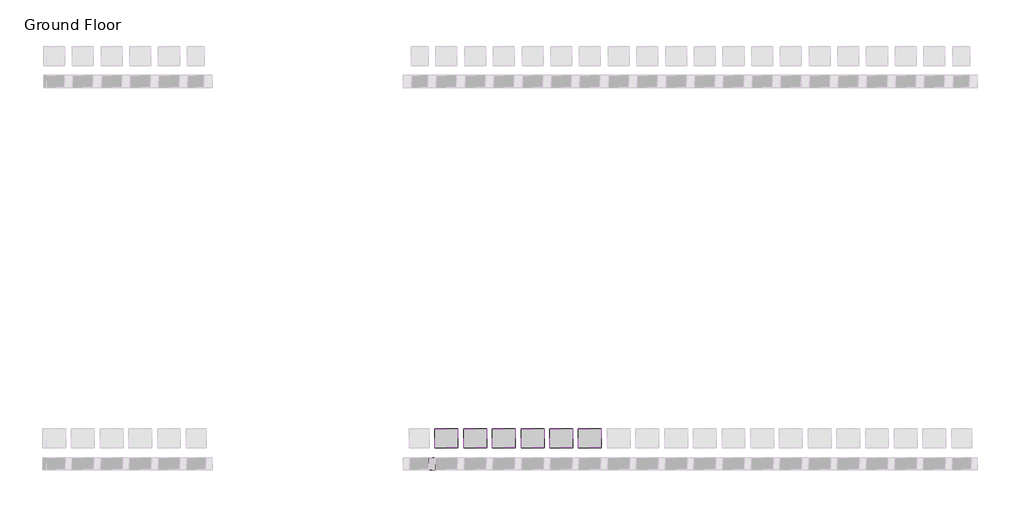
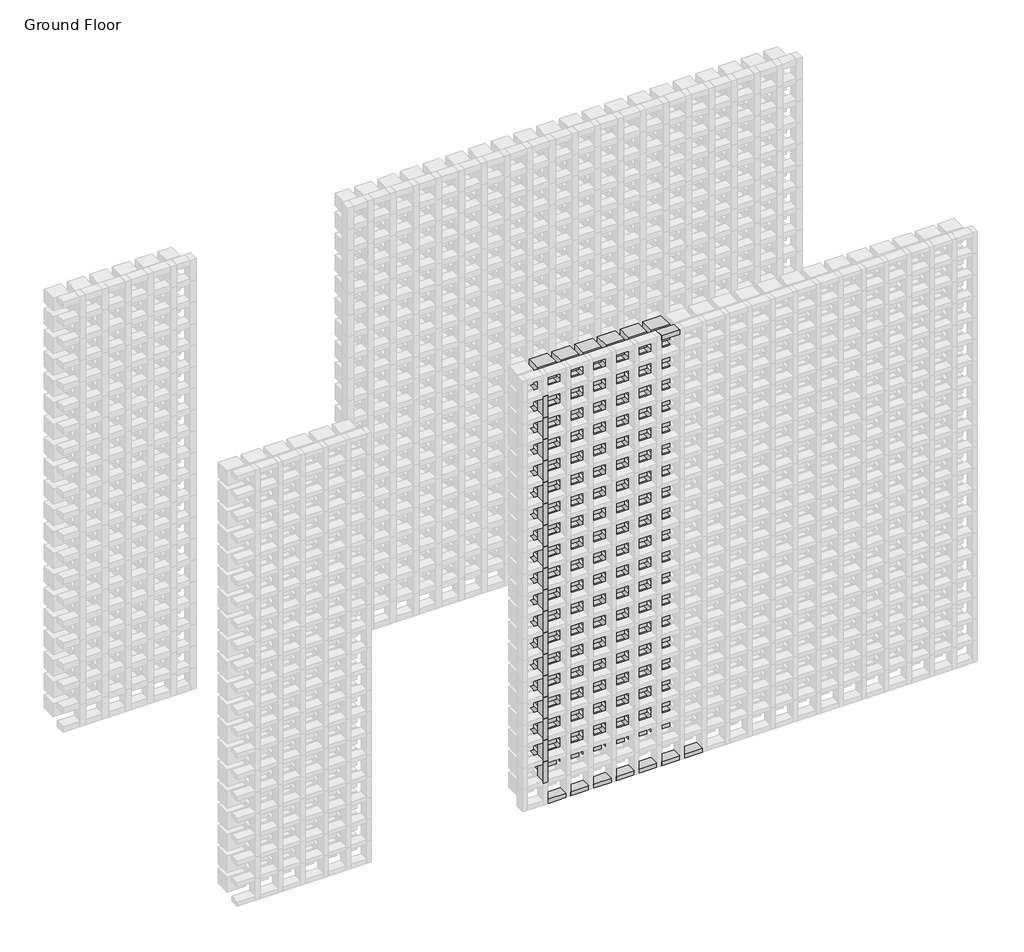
# One storey, part 74 of 350: 114 plates, 26 members.
"""IFC4 building model written with IfcOpenShell, lengths in millimetres."""

from ifc_helpers import new_model, si_unit, origin, place, context, project, spatial, transform, mapped, element, save
from components import rectangular_mullion_51467dcc, rectangular_mullion_d4c9a775, rectangular_mullion_5b501421, empty_system_panel_empty_a57e421f, empty_system_panel_empty_fe50b430

model = new_model("IFC4")

# Units and contexts
model_context = context("Model", 3, world=origin())
ifc_project = project(units=[si_unit("LENGTHUNIT", "METRE", prefix="MILLI")], contexts=[model_context])

# Site, building, storey
site = spatial("IfcSite", under=ifc_project)
building = spatial("IfcBuilding", under=site)
storey = spatial("IfcBuildingStorey", under=building, Name="Ground Floor", Elevation=0.0)

# Members
placement = place(None, origin())
rectangular_mullion_shape = rectangular_mullion_51467dcc(model_context)
element("IfcMember", 1, ObjectType="Rectangular Mullion : Batten_Timber_Modinex_Austratus_Grid_Fascia_30x65_Ironbark", at=placement, inside=storey, context=model_context, shape_type="MappedRepresentation", body=[
    mapped(rectangular_mullion_shape, transform((14951.4361642, 38968.2978302, 3000.0), x_axis=(0.0, 0.0, 1.0), y_axis=(0.0, -1.0, 0.0), z_axis=(1.0, 0.0, 0.0))),
])
rectangular_mullion_2_shape = rectangular_mullion_d4c9a775(model_context)
element("IfcMember", 2, ObjectType="Rectangular Mullion : Batten_Timber_Modinex_Austratus_Grid_Fascia_30x65_Ironbark", at=placement, inside=storey, context=model_context, shape_type="MappedRepresentation", body=[
    mapped(rectangular_mullion_2_shape, transform((14081.4361642, 38968.2978302, 0.0), x_axis=(0.0, 0.0, -1.0), y_axis=(0.0, -1.0, 0.0), z_axis=(-1.0, 0.0, 0.0))),
])
element("IfcMember", 3, ObjectType="Rectangular Mullion : Batten_Timber_Modinex_Austratus_Grid_Fascia_30x65_Ironbark", at=placement, inside=storey, context=model_context, shape_type="MappedRepresentation", body=[
    mapped(rectangular_mullion_2_shape, transform((14231.4361642, 38968.2978302, 0.0), x_axis=(0.0, 0.0, -1.0), y_axis=(0.0, -1.0, 0.0), z_axis=(-1.0, 0.0, 0.0))),
])
element("IfcMember", 4, ObjectType="Rectangular Mullion : Batten_Timber_Modinex_Austratus_Grid_Fascia_30x65_Ironbark", at=placement, inside=storey, context=model_context, shape_type="MappedRepresentation", body=[
    mapped(rectangular_mullion_2_shape, transform((14381.4361642, 38968.2978302, 0.0), x_axis=(0.0, 0.0, -1.0), y_axis=(0.0, -1.0, 0.0), z_axis=(-1.0, 0.0, 0.0))),
])
element("IfcMember", 5, ObjectType="Rectangular Mullion : Batten_Timber_Modinex_Austratus_Grid_Fascia_30x65_Ironbark", at=placement, inside=storey, context=model_context, shape_type="MappedRepresentation", body=[
    mapped(rectangular_mullion_2_shape, transform((14531.4361642, 38968.2978302, 0.0), x_axis=(0.0, 0.0, -1.0), y_axis=(0.0, -1.0, 0.0), z_axis=(-1.0, 0.0, 0.0))),
])
element("IfcMember", 6, ObjectType="Rectangular Mullion : Batten_Timber_Modinex_Austratus_Grid_Fascia_30x65_Ironbark", at=placement, inside=storey, context=model_context, shape_type="MappedRepresentation", body=[
    mapped(rectangular_mullion_2_shape, transform((14681.4361642, 38968.2978302, 0.0), x_axis=(0.0, 0.0, -1.0), y_axis=(0.0, -1.0, 0.0), z_axis=(-1.0, 0.0, 0.0))),
])
element("IfcMember", 7, ObjectType="Rectangular Mullion : Batten_Timber_Modinex_Austratus_Grid_Fascia_30x65_Ironbark", at=placement, inside=storey, context=model_context, shape_type="MappedRepresentation", body=[
    mapped(rectangular_mullion_2_shape, transform((14831.4361642, 38968.2978302, 0.0), x_axis=(0.0, 0.0, -1.0), y_axis=(0.0, -1.0, 0.0), z_axis=(-1.0, 0.0, 0.0))),
])
element("IfcMember", 8, ObjectType="Rectangular Mullion : Batten_Timber_Modinex_Austratus_Grid_Fascia_30x65_Ironbark", at=placement, inside=storey, context=model_context, shape_type="MappedRepresentation", body=[
    mapped(rectangular_mullion_2_shape, transform((14981.4361642, 38968.2978302, 0.0), x_axis=(0.0, 0.0, -1.0), y_axis=(0.0, -1.0, 0.0), z_axis=(-1.0, 0.0, 0.0))),
])
rectangular_mullion_3_shape = rectangular_mullion_5b501421(model_context)
element("IfcMember", 9, ObjectType="Rectangular Mullion : Batten_Timber_Modinex_Austratus_Grid_Fascia_30x65_Ironbark", at=placement, inside=storey, context=model_context, shape_type="MappedRepresentation", body=[
    mapped(rectangular_mullion_3_shape, transform((14066.4361642, 38968.2978302, 150.0), x_axis=(1.0, 0.0, 0.0), y_axis=(0.0, -1.0, 0.0), z_axis=(0.0, 0.0, -1.0))),
])
element("IfcMember", 10, ObjectType="Rectangular Mullion : Batten_Timber_Modinex_Austratus_Grid_Fascia_30x65_Ironbark", at=placement, inside=storey, context=model_context, shape_type="MappedRepresentation", body=[
    mapped(rectangular_mullion_3_shape, transform((14066.4361642, 38968.2978302, 300.0), x_axis=(1.0, 0.0, 0.0), y_axis=(0.0, -1.0, 0.0), z_axis=(0.0, 0.0, -1.0))),
])
element("IfcMember", 11, ObjectType="Rectangular Mullion : Batten_Timber_Modinex_Austratus_Grid_Fascia_30x65_Ironbark", at=placement, inside=storey, context=model_context, shape_type="MappedRepresentation", body=[
    mapped(rectangular_mullion_3_shape, transform((14066.4361642, 38968.2978302, 450.0), x_axis=(1.0, 0.0, 0.0), y_axis=(0.0, -1.0, 0.0), z_axis=(0.0, 0.0, -1.0))),
])
element("IfcMember", 12, ObjectType="Rectangular Mullion : Batten_Timber_Modinex_Austratus_Grid_Fascia_30x65_Ironbark", at=placement, inside=storey, context=model_context, shape_type="MappedRepresentation", body=[
    mapped(rectangular_mullion_3_shape, transform((14066.4361642, 38968.2978302, 600.0), x_axis=(1.0, 0.0, 0.0), y_axis=(0.0, -1.0, 0.0), z_axis=(0.0, 0.0, -1.0))),
])
element("IfcMember", 13, ObjectType="Rectangular Mullion : Batten_Timber_Modinex_Austratus_Grid_Fascia_30x65_Ironbark", at=placement, inside=storey, context=model_context, shape_type="MappedRepresentation", body=[
    mapped(rectangular_mullion_3_shape, transform((14066.4361642, 38968.2978302, 750.0), x_axis=(1.0, 0.0, 0.0), y_axis=(0.0, -1.0, 0.0), z_axis=(0.0, 0.0, -1.0))),
])
element("IfcMember", 14, ObjectType="Rectangular Mullion : Batten_Timber_Modinex_Austratus_Grid_Fascia_30x65_Ironbark", at=placement, inside=storey, context=model_context, shape_type="MappedRepresentation", body=[
    mapped(rectangular_mullion_3_shape, transform((14066.4361642, 38968.2978302, 900.0), x_axis=(1.0, 0.0, 0.0), y_axis=(0.0, -1.0, 0.0), z_axis=(0.0, 0.0, -1.0))),
])
element("IfcMember", 15, ObjectType="Rectangular Mullion : Batten_Timber_Modinex_Austratus_Grid_Fascia_30x65_Ironbark", at=placement, inside=storey, context=model_context, shape_type="MappedRepresentation", body=[
    mapped(rectangular_mullion_3_shape, transform((14066.4361642, 38968.2978302, 1050.0), x_axis=(1.0, 0.0, 0.0), y_axis=(0.0, -1.0, 0.0), z_axis=(0.0, 0.0, -1.0))),
])
element("IfcMember", 16, ObjectType="Rectangular Mullion : Batten_Timber_Modinex_Austratus_Grid_Fascia_30x65_Ironbark", at=placement, inside=storey, context=model_context, shape_type="MappedRepresentation", body=[
    mapped(rectangular_mullion_3_shape, transform((14066.4361642, 38968.2978302, 1200.0), x_axis=(1.0, 0.0, 0.0), y_axis=(0.0, -1.0, 0.0), z_axis=(0.0, 0.0, -1.0))),
])
element("IfcMember", 17, ObjectType="Rectangular Mullion : Batten_Timber_Modinex_Austratus_Grid_Fascia_30x65_Ironbark", at=placement, inside=storey, context=model_context, shape_type="MappedRepresentation", body=[
    mapped(rectangular_mullion_3_shape, transform((14066.4361642, 38968.2978302, 1350.0), x_axis=(1.0, 0.0, 0.0), y_axis=(0.0, -1.0, 0.0), z_axis=(0.0, 0.0, -1.0))),
])
element("IfcMember", 18, ObjectType="Rectangular Mullion : Batten_Timber_Modinex_Austratus_Grid_Fascia_30x65_Ironbark", at=placement, inside=storey, context=model_context, shape_type="MappedRepresentation", body=[
    mapped(rectangular_mullion_3_shape, transform((14066.4361642, 38968.2978302, 1500.0), x_axis=(1.0, 0.0, 0.0), y_axis=(0.0, -1.0, 0.0), z_axis=(0.0, 0.0, -1.0))),
])
element("IfcMember", 19, ObjectType="Rectangular Mullion : Batten_Timber_Modinex_Austratus_Grid_Fascia_30x65_Ironbark", at=placement, inside=storey, context=model_context, shape_type="MappedRepresentation", body=[
    mapped(rectangular_mullion_3_shape, transform((14066.4361642, 38968.2978302, 1650.0), x_axis=(1.0, 0.0, 0.0), y_axis=(0.0, -1.0, 0.0), z_axis=(0.0, 0.0, -1.0))),
])
element("IfcMember", 20, ObjectType="Rectangular Mullion : Batten_Timber_Modinex_Austratus_Grid_Fascia_30x65_Ironbark", at=placement, inside=storey, context=model_context, shape_type="MappedRepresentation", body=[
    mapped(rectangular_mullion_3_shape, transform((14066.4361642, 38968.2978302, 1800.0), x_axis=(1.0, 0.0, 0.0), y_axis=(0.0, -1.0, 0.0), z_axis=(0.0, 0.0, -1.0))),
])
element("IfcMember", 21, ObjectType="Rectangular Mullion : Batten_Timber_Modinex_Austratus_Grid_Fascia_30x65_Ironbark", at=placement, inside=storey, context=model_context, shape_type="MappedRepresentation", body=[
    mapped(rectangular_mullion_3_shape, transform((14066.4361642, 38968.2978302, 1950.0), x_axis=(1.0, 0.0, 0.0), y_axis=(0.0, -1.0, 0.0), z_axis=(0.0, 0.0, -1.0))),
])
element("IfcMember", 22, ObjectType="Rectangular Mullion : Batten_Timber_Modinex_Austratus_Grid_Fascia_30x65_Ironbark", at=placement, inside=storey, context=model_context, shape_type="MappedRepresentation", body=[
    mapped(rectangular_mullion_3_shape, transform((14066.4361642, 38968.2978302, 2100.0), x_axis=(1.0, 0.0, 0.0), y_axis=(0.0, -1.0, 0.0), z_axis=(0.0, 0.0, -1.0))),
])
element("IfcMember", 23, ObjectType="Rectangular Mullion : Batten_Timber_Modinex_Austratus_Grid_Fascia_30x65_Ironbark", at=placement, inside=storey, context=model_context, shape_type="MappedRepresentation", body=[
    mapped(rectangular_mullion_3_shape, transform((14066.4361642, 38968.2978302, 2250.0), x_axis=(1.0, 0.0, 0.0), y_axis=(0.0, -1.0, 0.0), z_axis=(0.0, 0.0, -1.0))),
])
element("IfcMember", 24, ObjectType="Rectangular Mullion : Batten_Timber_Modinex_Austratus_Grid_Fascia_30x65_Ironbark", at=placement, inside=storey, context=model_context, shape_type="MappedRepresentation", body=[
    mapped(rectangular_mullion_3_shape, transform((14066.4361642, 38968.2978302, 2400.0), x_axis=(1.0, 0.0, 0.0), y_axis=(0.0, -1.0, 0.0), z_axis=(0.0, 0.0, -1.0))),
])
element("IfcMember", 25, ObjectType="Rectangular Mullion : Batten_Timber_Modinex_Austratus_Grid_Fascia_30x65_Ironbark", at=placement, inside=storey, context=model_context, shape_type="MappedRepresentation", body=[
    mapped(rectangular_mullion_3_shape, transform((14066.4361642, 38968.2978302, 2550.0), x_axis=(1.0, 0.0, 0.0), y_axis=(0.0, -1.0, 0.0), z_axis=(0.0, 0.0, -1.0))),
])
element("IfcMember", 26, ObjectType="Rectangular Mullion : Batten_Timber_Modinex_Austratus_Grid_Fascia_30x65_Ironbark", at=placement, inside=storey, context=model_context, shape_type="MappedRepresentation", body=[
    mapped(rectangular_mullion_3_shape, transform((14066.4361642, 38968.2978302, 2700.0), x_axis=(1.0, 0.0, 0.0), y_axis=(0.0, -1.0, 0.0), z_axis=(0.0, 0.0, -1.0))),
])

# Plates
empty_system_panel_empty_shape = empty_system_panel_empty_a57e421f(model_context)
element("IfcPlate", 27, ObjectType="Empty System Panel : Empty", at=placement, inside=storey, context=model_context, shape_type="MappedRepresentation", body=[
    mapped(empty_system_panel_empty_shape, transform((14141.4361642, 38968.2978302, 165.0), x_axis=(1.0, 0.0, 0.0), y_axis=(0.0, 1.0, 0.0), z_axis=(0.0, 0.0, 1.0))),
])
element("IfcPlate", 28, ObjectType="Empty System Panel : Empty", at=placement, inside=storey, context=model_context, shape_type="MappedRepresentation", body=[
    mapped(empty_system_panel_empty_shape, transform((14291.4361642, 38968.2978302, 165.0), x_axis=(1.0, 0.0, 0.0), y_axis=(0.0, 1.0, 0.0), z_axis=(0.0, 0.0, 1.0))),
])
element("IfcPlate", 29, ObjectType="Empty System Panel : Empty", at=placement, inside=storey, context=model_context, shape_type="MappedRepresentation", body=[
    mapped(empty_system_panel_empty_shape, transform((14441.4361642, 38968.2978302, 165.0), x_axis=(1.0, 0.0, 0.0), y_axis=(0.0, 1.0, 0.0), z_axis=(0.0, 0.0, 1.0))),
])
element("IfcPlate", 30, ObjectType="Empty System Panel : Empty", at=placement, inside=storey, context=model_context, shape_type="MappedRepresentation", body=[
    mapped(empty_system_panel_empty_shape, transform((14591.4361642, 38968.2978302, 165.0), x_axis=(1.0, 0.0, 0.0), y_axis=(0.0, 1.0, 0.0), z_axis=(0.0, 0.0, 1.0))),
])
element("IfcPlate", 31, ObjectType="Empty System Panel : Empty", at=placement, inside=storey, context=model_context, shape_type="MappedRepresentation", body=[
    mapped(empty_system_panel_empty_shape, transform((14741.4361642, 38968.2978302, 165.0), x_axis=(1.0, 0.0, 0.0), y_axis=(0.0, 1.0, 0.0), z_axis=(0.0, 0.0, 1.0))),
])
element("IfcPlate", 32, ObjectType="Empty System Panel : Empty", at=placement, inside=storey, context=model_context, shape_type="MappedRepresentation", body=[
    mapped(empty_system_panel_empty_shape, transform((14891.4361642, 38968.2978302, 165.0), x_axis=(1.0, 0.0, 0.0), y_axis=(0.0, 1.0, 0.0), z_axis=(0.0, 0.0, 1.0))),
])
element("IfcPlate", 33, ObjectType="Empty System Panel : Empty", at=placement, inside=storey, context=model_context, shape_type="MappedRepresentation", body=[
    mapped(empty_system_panel_empty_shape, transform((14141.4361642, 38968.2978302, 315.0), x_axis=(1.0, 0.0, 0.0), y_axis=(0.0, 1.0, 0.0), z_axis=(0.0, 0.0, 1.0))),
])
element("IfcPlate", 34, ObjectType="Empty System Panel : Empty", at=placement, inside=storey, context=model_context, shape_type="MappedRepresentation", body=[
    mapped(empty_system_panel_empty_shape, transform((14291.4361642, 38968.2978302, 315.0), x_axis=(1.0, 0.0, 0.0), y_axis=(0.0, 1.0, 0.0), z_axis=(0.0, 0.0, 1.0))),
])
element("IfcPlate", 35, ObjectType="Empty System Panel : Empty", at=placement, inside=storey, context=model_context, shape_type="MappedRepresentation", body=[
    mapped(empty_system_panel_empty_shape, transform((14441.4361642, 38968.2978302, 315.0), x_axis=(1.0, 0.0, 0.0), y_axis=(0.0, 1.0, 0.0), z_axis=(0.0, 0.0, 1.0))),
])
element("IfcPlate", 36, ObjectType="Empty System Panel : Empty", at=placement, inside=storey, context=model_context, shape_type="MappedRepresentation", body=[
    mapped(empty_system_panel_empty_shape, transform((14591.4361642, 38968.2978302, 315.0), x_axis=(1.0, 0.0, 0.0), y_axis=(0.0, 1.0, 0.0), z_axis=(0.0, 0.0, 1.0))),
])
element("IfcPlate", 37, ObjectType="Empty System Panel : Empty", at=placement, inside=storey, context=model_context, shape_type="MappedRepresentation", body=[
    mapped(empty_system_panel_empty_shape, transform((14741.4361642, 38968.2978302, 315.0), x_axis=(1.0, 0.0, 0.0), y_axis=(0.0, 1.0, 0.0), z_axis=(0.0, 0.0, 1.0))),
])
element("IfcPlate", 38, ObjectType="Empty System Panel : Empty", at=placement, inside=storey, context=model_context, shape_type="MappedRepresentation", body=[
    mapped(empty_system_panel_empty_shape, transform((14891.4361642, 38968.2978302, 315.0), x_axis=(1.0, 0.0, 0.0), y_axis=(0.0, 1.0, 0.0), z_axis=(0.0, 0.0, 1.0))),
])
element("IfcPlate", 39, ObjectType="Empty System Panel : Empty", at=placement, inside=storey, context=model_context, shape_type="MappedRepresentation", body=[
    mapped(empty_system_panel_empty_shape, transform((14141.4361642, 38968.2978302, 465.0), x_axis=(1.0, 0.0, 0.0), y_axis=(0.0, 1.0, 0.0), z_axis=(0.0, 0.0, 1.0))),
])
element("IfcPlate", 40, ObjectType="Empty System Panel : Empty", at=placement, inside=storey, context=model_context, shape_type="MappedRepresentation", body=[
    mapped(empty_system_panel_empty_shape, transform((14291.4361642, 38968.2978302, 465.0), x_axis=(1.0, 0.0, 0.0), y_axis=(0.0, 1.0, 0.0), z_axis=(0.0, 0.0, 1.0))),
])
element("IfcPlate", 41, ObjectType="Empty System Panel : Empty", at=placement, inside=storey, context=model_context, shape_type="MappedRepresentation", body=[
    mapped(empty_system_panel_empty_shape, transform((14441.4361642, 38968.2978302, 465.0), x_axis=(1.0, 0.0, 0.0), y_axis=(0.0, 1.0, 0.0), z_axis=(0.0, 0.0, 1.0))),
])
element("IfcPlate", 42, ObjectType="Empty System Panel : Empty", at=placement, inside=storey, context=model_context, shape_type="MappedRepresentation", body=[
    mapped(empty_system_panel_empty_shape, transform((14591.4361642, 38968.2978302, 465.0), x_axis=(1.0, 0.0, 0.0), y_axis=(0.0, 1.0, 0.0), z_axis=(0.0, 0.0, 1.0))),
])
element("IfcPlate", 43, ObjectType="Empty System Panel : Empty", at=placement, inside=storey, context=model_context, shape_type="MappedRepresentation", body=[
    mapped(empty_system_panel_empty_shape, transform((14741.4361642, 38968.2978302, 465.0), x_axis=(1.0, 0.0, 0.0), y_axis=(0.0, 1.0, 0.0), z_axis=(0.0, 0.0, 1.0))),
])
element("IfcPlate", 44, ObjectType="Empty System Panel : Empty", at=placement, inside=storey, context=model_context, shape_type="MappedRepresentation", body=[
    mapped(empty_system_panel_empty_shape, transform((14891.4361642, 38968.2978302, 465.0), x_axis=(1.0, 0.0, 0.0), y_axis=(0.0, 1.0, 0.0), z_axis=(0.0, 0.0, 1.0))),
])
element("IfcPlate", 45, ObjectType="Empty System Panel : Empty", at=placement, inside=storey, context=model_context, shape_type="MappedRepresentation", body=[
    mapped(empty_system_panel_empty_shape, transform((14141.4361642, 38968.2978302, 615.0), x_axis=(1.0, 0.0, 0.0), y_axis=(0.0, 1.0, 0.0), z_axis=(0.0, 0.0, 1.0))),
])
element("IfcPlate", 46, ObjectType="Empty System Panel : Empty", at=placement, inside=storey, context=model_context, shape_type="MappedRepresentation", body=[
    mapped(empty_system_panel_empty_shape, transform((14291.4361642, 38968.2978302, 615.0), x_axis=(1.0, 0.0, 0.0), y_axis=(0.0, 1.0, 0.0), z_axis=(0.0, 0.0, 1.0))),
])
element("IfcPlate", 47, ObjectType="Empty System Panel : Empty", at=placement, inside=storey, context=model_context, shape_type="MappedRepresentation", body=[
    mapped(empty_system_panel_empty_shape, transform((14441.4361642, 38968.2978302, 615.0), x_axis=(1.0, 0.0, 0.0), y_axis=(0.0, 1.0, 0.0), z_axis=(0.0, 0.0, 1.0))),
])
element("IfcPlate", 48, ObjectType="Empty System Panel : Empty", at=placement, inside=storey, context=model_context, shape_type="MappedRepresentation", body=[
    mapped(empty_system_panel_empty_shape, transform((14591.4361642, 38968.2978302, 615.0), x_axis=(1.0, 0.0, 0.0), y_axis=(0.0, 1.0, 0.0), z_axis=(0.0, 0.0, 1.0))),
])
element("IfcPlate", 49, ObjectType="Empty System Panel : Empty", at=placement, inside=storey, context=model_context, shape_type="MappedRepresentation", body=[
    mapped(empty_system_panel_empty_shape, transform((14741.4361642, 38968.2978302, 615.0), x_axis=(1.0, 0.0, 0.0), y_axis=(0.0, 1.0, 0.0), z_axis=(0.0, 0.0, 1.0))),
])
element("IfcPlate", 50, ObjectType="Empty System Panel : Empty", at=placement, inside=storey, context=model_context, shape_type="MappedRepresentation", body=[
    mapped(empty_system_panel_empty_shape, transform((14891.4361642, 38968.2978302, 615.0), x_axis=(1.0, 0.0, 0.0), y_axis=(0.0, 1.0, 0.0), z_axis=(0.0, 0.0, 1.0))),
])
element("IfcPlate", 51, ObjectType="Empty System Panel : Empty", at=placement, inside=storey, context=model_context, shape_type="MappedRepresentation", body=[
    mapped(empty_system_panel_empty_shape, transform((14141.4361642, 38968.2978302, 765.0), x_axis=(1.0, 0.0, 0.0), y_axis=(0.0, 1.0, 0.0), z_axis=(0.0, 0.0, 1.0))),
])
element("IfcPlate", 52, ObjectType="Empty System Panel : Empty", at=placement, inside=storey, context=model_context, shape_type="MappedRepresentation", body=[
    mapped(empty_system_panel_empty_shape, transform((14291.4361642, 38968.2978302, 765.0), x_axis=(1.0, 0.0, 0.0), y_axis=(0.0, 1.0, 0.0), z_axis=(0.0, 0.0, 1.0))),
])
element("IfcPlate", 53, ObjectType="Empty System Panel : Empty", at=placement, inside=storey, context=model_context, shape_type="MappedRepresentation", body=[
    mapped(empty_system_panel_empty_shape, transform((14441.4361642, 38968.2978302, 765.0), x_axis=(1.0, 0.0, 0.0), y_axis=(0.0, 1.0, 0.0), z_axis=(0.0, 0.0, 1.0))),
])
element("IfcPlate", 54, ObjectType="Empty System Panel : Empty", at=placement, inside=storey, context=model_context, shape_type="MappedRepresentation", body=[
    mapped(empty_system_panel_empty_shape, transform((14591.4361642, 38968.2978302, 765.0), x_axis=(1.0, 0.0, 0.0), y_axis=(0.0, 1.0, 0.0), z_axis=(0.0, 0.0, 1.0))),
])
element("IfcPlate", 55, ObjectType="Empty System Panel : Empty", at=placement, inside=storey, context=model_context, shape_type="MappedRepresentation", body=[
    mapped(empty_system_panel_empty_shape, transform((14741.4361642, 38968.2978302, 765.0), x_axis=(1.0, 0.0, 0.0), y_axis=(0.0, 1.0, 0.0), z_axis=(0.0, 0.0, 1.0))),
])
element("IfcPlate", 56, ObjectType="Empty System Panel : Empty", at=placement, inside=storey, context=model_context, shape_type="MappedRepresentation", body=[
    mapped(empty_system_panel_empty_shape, transform((14891.4361642, 38968.2978302, 765.0), x_axis=(1.0, 0.0, 0.0), y_axis=(0.0, 1.0, 0.0), z_axis=(0.0, 0.0, 1.0))),
])
element("IfcPlate", 57, ObjectType="Empty System Panel : Empty", at=placement, inside=storey, context=model_context, shape_type="MappedRepresentation", body=[
    mapped(empty_system_panel_empty_shape, transform((14141.4361642, 38968.2978302, 915.0), x_axis=(1.0, 0.0, 0.0), y_axis=(0.0, 1.0, 0.0), z_axis=(0.0, 0.0, 1.0))),
])
element("IfcPlate", 58, ObjectType="Empty System Panel : Empty", at=placement, inside=storey, context=model_context, shape_type="MappedRepresentation", body=[
    mapped(empty_system_panel_empty_shape, transform((14291.4361642, 38968.2978302, 915.0), x_axis=(1.0, 0.0, 0.0), y_axis=(0.0, 1.0, 0.0), z_axis=(0.0, 0.0, 1.0))),
])
element("IfcPlate", 59, ObjectType="Empty System Panel : Empty", at=placement, inside=storey, context=model_context, shape_type="MappedRepresentation", body=[
    mapped(empty_system_panel_empty_shape, transform((14441.4361642, 38968.2978302, 915.0), x_axis=(1.0, 0.0, 0.0), y_axis=(0.0, 1.0, 0.0), z_axis=(0.0, 0.0, 1.0))),
])
element("IfcPlate", 60, ObjectType="Empty System Panel : Empty", at=placement, inside=storey, context=model_context, shape_type="MappedRepresentation", body=[
    mapped(empty_system_panel_empty_shape, transform((14591.4361642, 38968.2978302, 915.0), x_axis=(1.0, 0.0, 0.0), y_axis=(0.0, 1.0, 0.0), z_axis=(0.0, 0.0, 1.0))),
])
element("IfcPlate", 61, ObjectType="Empty System Panel : Empty", at=placement, inside=storey, context=model_context, shape_type="MappedRepresentation", body=[
    mapped(empty_system_panel_empty_shape, transform((14741.4361642, 38968.2978302, 915.0), x_axis=(1.0, 0.0, 0.0), y_axis=(0.0, 1.0, 0.0), z_axis=(0.0, 0.0, 1.0))),
])
element("IfcPlate", 62, ObjectType="Empty System Panel : Empty", at=placement, inside=storey, context=model_context, shape_type="MappedRepresentation", body=[
    mapped(empty_system_panel_empty_shape, transform((14891.4361642, 38968.2978302, 915.0), x_axis=(1.0, 0.0, 0.0), y_axis=(0.0, 1.0, 0.0), z_axis=(0.0, 0.0, 1.0))),
])
element("IfcPlate", 63, ObjectType="Empty System Panel : Empty", at=placement, inside=storey, context=model_context, shape_type="MappedRepresentation", body=[
    mapped(empty_system_panel_empty_shape, transform((14141.4361642, 38968.2978302, 1065.0), x_axis=(1.0, 0.0, 0.0), y_axis=(0.0, 1.0, 0.0), z_axis=(0.0, 0.0, 1.0))),
])
element("IfcPlate", 64, ObjectType="Empty System Panel : Empty", at=placement, inside=storey, context=model_context, shape_type="MappedRepresentation", body=[
    mapped(empty_system_panel_empty_shape, transform((14291.4361642, 38968.2978302, 1065.0), x_axis=(1.0, 0.0, 0.0), y_axis=(0.0, 1.0, 0.0), z_axis=(0.0, 0.0, 1.0))),
])
element("IfcPlate", 65, ObjectType="Empty System Panel : Empty", at=placement, inside=storey, context=model_context, shape_type="MappedRepresentation", body=[
    mapped(empty_system_panel_empty_shape, transform((14441.4361642, 38968.2978302, 1065.0), x_axis=(1.0, 0.0, 0.0), y_axis=(0.0, 1.0, 0.0), z_axis=(0.0, 0.0, 1.0))),
])
element("IfcPlate", 66, ObjectType="Empty System Panel : Empty", at=placement, inside=storey, context=model_context, shape_type="MappedRepresentation", body=[
    mapped(empty_system_panel_empty_shape, transform((14591.4361642, 38968.2978302, 1065.0), x_axis=(1.0, 0.0, 0.0), y_axis=(0.0, 1.0, 0.0), z_axis=(0.0, 0.0, 1.0))),
])
element("IfcPlate", 67, ObjectType="Empty System Panel : Empty", at=placement, inside=storey, context=model_context, shape_type="MappedRepresentation", body=[
    mapped(empty_system_panel_empty_shape, transform((14741.4361642, 38968.2978302, 1065.0), x_axis=(1.0, 0.0, 0.0), y_axis=(0.0, 1.0, 0.0), z_axis=(0.0, 0.0, 1.0))),
])
element("IfcPlate", 68, ObjectType="Empty System Panel : Empty", at=placement, inside=storey, context=model_context, shape_type="MappedRepresentation", body=[
    mapped(empty_system_panel_empty_shape, transform((14891.4361642, 38968.2978302, 1065.0), x_axis=(1.0, 0.0, 0.0), y_axis=(0.0, 1.0, 0.0), z_axis=(0.0, 0.0, 1.0))),
])
element("IfcPlate", 69, ObjectType="Empty System Panel : Empty", at=placement, inside=storey, context=model_context, shape_type="MappedRepresentation", body=[
    mapped(empty_system_panel_empty_shape, transform((14141.4361642, 38968.2978302, 1215.0), x_axis=(1.0, 0.0, 0.0), y_axis=(0.0, 1.0, 0.0), z_axis=(0.0, 0.0, 1.0))),
])
element("IfcPlate", 70, ObjectType="Empty System Panel : Empty", at=placement, inside=storey, context=model_context, shape_type="MappedRepresentation", body=[
    mapped(empty_system_panel_empty_shape, transform((14291.4361642, 38968.2978302, 1215.0), x_axis=(1.0, 0.0, 0.0), y_axis=(0.0, 1.0, 0.0), z_axis=(0.0, 0.0, 1.0))),
])
element("IfcPlate", 71, ObjectType="Empty System Panel : Empty", at=placement, inside=storey, context=model_context, shape_type="MappedRepresentation", body=[
    mapped(empty_system_panel_empty_shape, transform((14441.4361642, 38968.2978302, 1215.0), x_axis=(1.0, 0.0, 0.0), y_axis=(0.0, 1.0, 0.0), z_axis=(0.0, 0.0, 1.0))),
])
element("IfcPlate", 72, ObjectType="Empty System Panel : Empty", at=placement, inside=storey, context=model_context, shape_type="MappedRepresentation", body=[
    mapped(empty_system_panel_empty_shape, transform((14591.4361642, 38968.2978302, 1215.0), x_axis=(1.0, 0.0, 0.0), y_axis=(0.0, 1.0, 0.0), z_axis=(0.0, 0.0, 1.0))),
])
element("IfcPlate", 73, ObjectType="Empty System Panel : Empty", at=placement, inside=storey, context=model_context, shape_type="MappedRepresentation", body=[
    mapped(empty_system_panel_empty_shape, transform((14741.4361642, 38968.2978302, 1215.0), x_axis=(1.0, 0.0, 0.0), y_axis=(0.0, 1.0, 0.0), z_axis=(0.0, 0.0, 1.0))),
])
element("IfcPlate", 74, ObjectType="Empty System Panel : Empty", at=placement, inside=storey, context=model_context, shape_type="MappedRepresentation", body=[
    mapped(empty_system_panel_empty_shape, transform((14891.4361642, 38968.2978302, 1215.0), x_axis=(1.0, 0.0, 0.0), y_axis=(0.0, 1.0, 0.0), z_axis=(0.0, 0.0, 1.0))),
])
element("IfcPlate", 75, ObjectType="Empty System Panel : Empty", at=placement, inside=storey, context=model_context, shape_type="MappedRepresentation", body=[
    mapped(empty_system_panel_empty_shape, transform((14141.4361642, 38968.2978302, 1365.0), x_axis=(1.0, 0.0, 0.0), y_axis=(0.0, 1.0, 0.0), z_axis=(0.0, 0.0, 1.0))),
])
element("IfcPlate", 76, ObjectType="Empty System Panel : Empty", at=placement, inside=storey, context=model_context, shape_type="MappedRepresentation", body=[
    mapped(empty_system_panel_empty_shape, transform((14291.4361642, 38968.2978302, 1365.0), x_axis=(1.0, 0.0, 0.0), y_axis=(0.0, 1.0, 0.0), z_axis=(0.0, 0.0, 1.0))),
])
element("IfcPlate", 77, ObjectType="Empty System Panel : Empty", at=placement, inside=storey, context=model_context, shape_type="MappedRepresentation", body=[
    mapped(empty_system_panel_empty_shape, transform((14441.4361642, 38968.2978302, 1365.0), x_axis=(1.0, 0.0, 0.0), y_axis=(0.0, 1.0, 0.0), z_axis=(0.0, 0.0, 1.0))),
])
element("IfcPlate", 78, ObjectType="Empty System Panel : Empty", at=placement, inside=storey, context=model_context, shape_type="MappedRepresentation", body=[
    mapped(empty_system_panel_empty_shape, transform((14591.4361642, 38968.2978302, 1365.0), x_axis=(1.0, 0.0, 0.0), y_axis=(0.0, 1.0, 0.0), z_axis=(0.0, 0.0, 1.0))),
])
element("IfcPlate", 79, ObjectType="Empty System Panel : Empty", at=placement, inside=storey, context=model_context, shape_type="MappedRepresentation", body=[
    mapped(empty_system_panel_empty_shape, transform((14741.4361642, 38968.2978302, 1365.0), x_axis=(1.0, 0.0, 0.0), y_axis=(0.0, 1.0, 0.0), z_axis=(0.0, 0.0, 1.0))),
])
element("IfcPlate", 80, ObjectType="Empty System Panel : Empty", at=placement, inside=storey, context=model_context, shape_type="MappedRepresentation", body=[
    mapped(empty_system_panel_empty_shape, transform((14891.4361642, 38968.2978302, 1365.0), x_axis=(1.0, 0.0, 0.0), y_axis=(0.0, 1.0, 0.0), z_axis=(0.0, 0.0, 1.0))),
])
element("IfcPlate", 81, ObjectType="Empty System Panel : Empty", at=placement, inside=storey, context=model_context, shape_type="MappedRepresentation", body=[
    mapped(empty_system_panel_empty_shape, transform((14141.4361642, 38968.2978302, 1515.0), x_axis=(1.0, 0.0, 0.0), y_axis=(0.0, 1.0, 0.0), z_axis=(0.0, 0.0, 1.0))),
])
element("IfcPlate", 82, ObjectType="Empty System Panel : Empty", at=placement, inside=storey, context=model_context, shape_type="MappedRepresentation", body=[
    mapped(empty_system_panel_empty_shape, transform((14291.4361642, 38968.2978302, 1515.0), x_axis=(1.0, 0.0, 0.0), y_axis=(0.0, 1.0, 0.0), z_axis=(0.0, 0.0, 1.0))),
])
element("IfcPlate", 83, ObjectType="Empty System Panel : Empty", at=placement, inside=storey, context=model_context, shape_type="MappedRepresentation", body=[
    mapped(empty_system_panel_empty_shape, transform((14441.4361642, 38968.2978302, 1515.0), x_axis=(1.0, 0.0, 0.0), y_axis=(0.0, 1.0, 0.0), z_axis=(0.0, 0.0, 1.0))),
])
element("IfcPlate", 84, ObjectType="Empty System Panel : Empty", at=placement, inside=storey, context=model_context, shape_type="MappedRepresentation", body=[
    mapped(empty_system_panel_empty_shape, transform((14591.4361642, 38968.2978302, 1515.0), x_axis=(1.0, 0.0, 0.0), y_axis=(0.0, 1.0, 0.0), z_axis=(0.0, 0.0, 1.0))),
])
element("IfcPlate", 85, ObjectType="Empty System Panel : Empty", at=placement, inside=storey, context=model_context, shape_type="MappedRepresentation", body=[
    mapped(empty_system_panel_empty_shape, transform((14741.4361642, 38968.2978302, 1515.0), x_axis=(1.0, 0.0, 0.0), y_axis=(0.0, 1.0, 0.0), z_axis=(0.0, 0.0, 1.0))),
])
element("IfcPlate", 86, ObjectType="Empty System Panel : Empty", at=placement, inside=storey, context=model_context, shape_type="MappedRepresentation", body=[
    mapped(empty_system_panel_empty_shape, transform((14891.4361642, 38968.2978302, 1515.0), x_axis=(1.0, 0.0, 0.0), y_axis=(0.0, 1.0, 0.0), z_axis=(0.0, 0.0, 1.0))),
])
element("IfcPlate", 87, ObjectType="Empty System Panel : Empty", at=placement, inside=storey, context=model_context, shape_type="MappedRepresentation", body=[
    mapped(empty_system_panel_empty_shape, transform((14141.4361642, 38968.2978302, 1665.0), x_axis=(1.0, 0.0, 0.0), y_axis=(0.0, 1.0, 0.0), z_axis=(0.0, 0.0, 1.0))),
])
element("IfcPlate", 88, ObjectType="Empty System Panel : Empty", at=placement, inside=storey, context=model_context, shape_type="MappedRepresentation", body=[
    mapped(empty_system_panel_empty_shape, transform((14291.4361642, 38968.2978302, 1665.0), x_axis=(1.0, 0.0, 0.0), y_axis=(0.0, 1.0, 0.0), z_axis=(0.0, 0.0, 1.0))),
])
element("IfcPlate", 89, ObjectType="Empty System Panel : Empty", at=placement, inside=storey, context=model_context, shape_type="MappedRepresentation", body=[
    mapped(empty_system_panel_empty_shape, transform((14441.4361642, 38968.2978302, 1665.0), x_axis=(1.0, 0.0, 0.0), y_axis=(0.0, 1.0, 0.0), z_axis=(0.0, 0.0, 1.0))),
])
element("IfcPlate", 90, ObjectType="Empty System Panel : Empty", at=placement, inside=storey, context=model_context, shape_type="MappedRepresentation", body=[
    mapped(empty_system_panel_empty_shape, transform((14591.4361642, 38968.2978302, 1665.0), x_axis=(1.0, 0.0, 0.0), y_axis=(0.0, 1.0, 0.0), z_axis=(0.0, 0.0, 1.0))),
])
element("IfcPlate", 91, ObjectType="Empty System Panel : Empty", at=placement, inside=storey, context=model_context, shape_type="MappedRepresentation", body=[
    mapped(empty_system_panel_empty_shape, transform((14741.4361642, 38968.2978302, 1665.0), x_axis=(1.0, 0.0, 0.0), y_axis=(0.0, 1.0, 0.0), z_axis=(0.0, 0.0, 1.0))),
])
element("IfcPlate", 92, ObjectType="Empty System Panel : Empty", at=placement, inside=storey, context=model_context, shape_type="MappedRepresentation", body=[
    mapped(empty_system_panel_empty_shape, transform((14891.4361642, 38968.2978302, 1665.0), x_axis=(1.0, 0.0, 0.0), y_axis=(0.0, 1.0, 0.0), z_axis=(0.0, 0.0, 1.0))),
])
element("IfcPlate", 93, ObjectType="Empty System Panel : Empty", at=placement, inside=storey, context=model_context, shape_type="MappedRepresentation", body=[
    mapped(empty_system_panel_empty_shape, transform((14141.4361642, 38968.2978302, 1815.0), x_axis=(1.0, 0.0, 0.0), y_axis=(0.0, 1.0, 0.0), z_axis=(0.0, 0.0, 1.0))),
])
element("IfcPlate", 94, ObjectType="Empty System Panel : Empty", at=placement, inside=storey, context=model_context, shape_type="MappedRepresentation", body=[
    mapped(empty_system_panel_empty_shape, transform((14291.4361642, 38968.2978302, 1815.0), x_axis=(1.0, 0.0, 0.0), y_axis=(0.0, 1.0, 0.0), z_axis=(0.0, 0.0, 1.0))),
])
element("IfcPlate", 95, ObjectType="Empty System Panel : Empty", at=placement, inside=storey, context=model_context, shape_type="MappedRepresentation", body=[
    mapped(empty_system_panel_empty_shape, transform((14441.4361642, 38968.2978302, 1815.0), x_axis=(1.0, 0.0, 0.0), y_axis=(0.0, 1.0, 0.0), z_axis=(0.0, 0.0, 1.0))),
])
element("IfcPlate", 96, ObjectType="Empty System Panel : Empty", at=placement, inside=storey, context=model_context, shape_type="MappedRepresentation", body=[
    mapped(empty_system_panel_empty_shape, transform((14591.4361642, 38968.2978302, 1815.0), x_axis=(1.0, 0.0, 0.0), y_axis=(0.0, 1.0, 0.0), z_axis=(0.0, 0.0, 1.0))),
])
element("IfcPlate", 97, ObjectType="Empty System Panel : Empty", at=placement, inside=storey, context=model_context, shape_type="MappedRepresentation", body=[
    mapped(empty_system_panel_empty_shape, transform((14741.4361642, 38968.2978302, 1815.0), x_axis=(1.0, 0.0, 0.0), y_axis=(0.0, 1.0, 0.0), z_axis=(0.0, 0.0, 1.0))),
])
element("IfcPlate", 98, ObjectType="Empty System Panel : Empty", at=placement, inside=storey, context=model_context, shape_type="MappedRepresentation", body=[
    mapped(empty_system_panel_empty_shape, transform((14891.4361642, 38968.2978302, 1815.0), x_axis=(1.0, 0.0, 0.0), y_axis=(0.0, 1.0, 0.0), z_axis=(0.0, 0.0, 1.0))),
])
element("IfcPlate", 99, ObjectType="Empty System Panel : Empty", at=placement, inside=storey, context=model_context, shape_type="MappedRepresentation", body=[
    mapped(empty_system_panel_empty_shape, transform((14141.4361642, 38968.2978302, 1965.0), x_axis=(1.0, 0.0, 0.0), y_axis=(0.0, 1.0, 0.0), z_axis=(0.0, 0.0, 1.0))),
])
element("IfcPlate", 100, ObjectType="Empty System Panel : Empty", at=placement, inside=storey, context=model_context, shape_type="MappedRepresentation", body=[
    mapped(empty_system_panel_empty_shape, transform((14291.4361642, 38968.2978302, 1965.0), x_axis=(1.0, 0.0, 0.0), y_axis=(0.0, 1.0, 0.0), z_axis=(0.0, 0.0, 1.0))),
])
element("IfcPlate", 101, ObjectType="Empty System Panel : Empty", at=placement, inside=storey, context=model_context, shape_type="MappedRepresentation", body=[
    mapped(empty_system_panel_empty_shape, transform((14441.4361642, 38968.2978302, 1965.0), x_axis=(1.0, 0.0, 0.0), y_axis=(0.0, 1.0, 0.0), z_axis=(0.0, 0.0, 1.0))),
])
element("IfcPlate", 102, ObjectType="Empty System Panel : Empty", at=placement, inside=storey, context=model_context, shape_type="MappedRepresentation", body=[
    mapped(empty_system_panel_empty_shape, transform((14591.4361642, 38968.2978302, 1965.0), x_axis=(1.0, 0.0, 0.0), y_axis=(0.0, 1.0, 0.0), z_axis=(0.0, 0.0, 1.0))),
])
element("IfcPlate", 103, ObjectType="Empty System Panel : Empty", at=placement, inside=storey, context=model_context, shape_type="MappedRepresentation", body=[
    mapped(empty_system_panel_empty_shape, transform((14741.4361642, 38968.2978302, 1965.0), x_axis=(1.0, 0.0, 0.0), y_axis=(0.0, 1.0, 0.0), z_axis=(0.0, 0.0, 1.0))),
])
element("IfcPlate", 104, ObjectType="Empty System Panel : Empty", at=placement, inside=storey, context=model_context, shape_type="MappedRepresentation", body=[
    mapped(empty_system_panel_empty_shape, transform((14891.4361642, 38968.2978302, 1965.0), x_axis=(1.0, 0.0, 0.0), y_axis=(0.0, 1.0, 0.0), z_axis=(0.0, 0.0, 1.0))),
])
element("IfcPlate", 105, ObjectType="Empty System Panel : Empty", at=placement, inside=storey, context=model_context, shape_type="MappedRepresentation", body=[
    mapped(empty_system_panel_empty_shape, transform((14141.4361642, 38968.2978302, 2115.0), x_axis=(1.0, 0.0, 0.0), y_axis=(0.0, 1.0, 0.0), z_axis=(0.0, 0.0, 1.0))),
])
element("IfcPlate", 106, ObjectType="Empty System Panel : Empty", at=placement, inside=storey, context=model_context, shape_type="MappedRepresentation", body=[
    mapped(empty_system_panel_empty_shape, transform((14291.4361642, 38968.2978302, 2115.0), x_axis=(1.0, 0.0, 0.0), y_axis=(0.0, 1.0, 0.0), z_axis=(0.0, 0.0, 1.0))),
])
element("IfcPlate", 107, ObjectType="Empty System Panel : Empty", at=placement, inside=storey, context=model_context, shape_type="MappedRepresentation", body=[
    mapped(empty_system_panel_empty_shape, transform((14441.4361642, 38968.2978302, 2115.0), x_axis=(1.0, 0.0, 0.0), y_axis=(0.0, 1.0, 0.0), z_axis=(0.0, 0.0, 1.0))),
])
element("IfcPlate", 108, ObjectType="Empty System Panel : Empty", at=placement, inside=storey, context=model_context, shape_type="MappedRepresentation", body=[
    mapped(empty_system_panel_empty_shape, transform((14591.4361642, 38968.2978302, 2115.0), x_axis=(1.0, 0.0, 0.0), y_axis=(0.0, 1.0, 0.0), z_axis=(0.0, 0.0, 1.0))),
])
element("IfcPlate", 109, ObjectType="Empty System Panel : Empty", at=placement, inside=storey, context=model_context, shape_type="MappedRepresentation", body=[
    mapped(empty_system_panel_empty_shape, transform((14741.4361642, 38968.2978302, 2115.0), x_axis=(1.0, 0.0, 0.0), y_axis=(0.0, 1.0, 0.0), z_axis=(0.0, 0.0, 1.0))),
])
element("IfcPlate", 110, ObjectType="Empty System Panel : Empty", at=placement, inside=storey, context=model_context, shape_type="MappedRepresentation", body=[
    mapped(empty_system_panel_empty_shape, transform((14891.4361642, 38968.2978302, 2115.0), x_axis=(1.0, 0.0, 0.0), y_axis=(0.0, 1.0, 0.0), z_axis=(0.0, 0.0, 1.0))),
])
element("IfcPlate", 111, ObjectType="Empty System Panel : Empty", at=placement, inside=storey, context=model_context, shape_type="MappedRepresentation", body=[
    mapped(empty_system_panel_empty_shape, transform((14141.4361642, 38968.2978302, 2265.0), x_axis=(1.0, 0.0, 0.0), y_axis=(0.0, 1.0, 0.0), z_axis=(0.0, 0.0, 1.0))),
])
element("IfcPlate", 112, ObjectType="Empty System Panel : Empty", at=placement, inside=storey, context=model_context, shape_type="MappedRepresentation", body=[
    mapped(empty_system_panel_empty_shape, transform((14291.4361642, 38968.2978302, 2265.0), x_axis=(1.0, 0.0, 0.0), y_axis=(0.0, 1.0, 0.0), z_axis=(0.0, 0.0, 1.0))),
])
element("IfcPlate", 113, ObjectType="Empty System Panel : Empty", at=placement, inside=storey, context=model_context, shape_type="MappedRepresentation", body=[
    mapped(empty_system_panel_empty_shape, transform((14441.4361642, 38968.2978302, 2265.0), x_axis=(1.0, 0.0, 0.0), y_axis=(0.0, 1.0, 0.0), z_axis=(0.0, 0.0, 1.0))),
])
element("IfcPlate", 114, ObjectType="Empty System Panel : Empty", at=placement, inside=storey, context=model_context, shape_type="MappedRepresentation", body=[
    mapped(empty_system_panel_empty_shape, transform((14591.4361642, 38968.2978302, 2265.0), x_axis=(1.0, 0.0, 0.0), y_axis=(0.0, 1.0, 0.0), z_axis=(0.0, 0.0, 1.0))),
])
element("IfcPlate", 115, ObjectType="Empty System Panel : Empty", at=placement, inside=storey, context=model_context, shape_type="MappedRepresentation", body=[
    mapped(empty_system_panel_empty_shape, transform((14741.4361642, 38968.2978302, 2265.0), x_axis=(1.0, 0.0, 0.0), y_axis=(0.0, 1.0, 0.0), z_axis=(0.0, 0.0, 1.0))),
])
element("IfcPlate", 116, ObjectType="Empty System Panel : Empty", at=placement, inside=storey, context=model_context, shape_type="MappedRepresentation", body=[
    mapped(empty_system_panel_empty_shape, transform((14891.4361642, 38968.2978302, 2265.0), x_axis=(1.0, 0.0, 0.0), y_axis=(0.0, 1.0, 0.0), z_axis=(0.0, 0.0, 1.0))),
])
element("IfcPlate", 117, ObjectType="Empty System Panel : Empty", at=placement, inside=storey, context=model_context, shape_type="MappedRepresentation", body=[
    mapped(empty_system_panel_empty_shape, transform((14141.4361642, 38968.2978302, 2415.0), x_axis=(1.0, 0.0, 0.0), y_axis=(0.0, 1.0, 0.0), z_axis=(0.0, 0.0, 1.0))),
])
element("IfcPlate", 118, ObjectType="Empty System Panel : Empty", at=placement, inside=storey, context=model_context, shape_type="MappedRepresentation", body=[
    mapped(empty_system_panel_empty_shape, transform((14291.4361642, 38968.2978302, 2415.0), x_axis=(1.0, 0.0, 0.0), y_axis=(0.0, 1.0, 0.0), z_axis=(0.0, 0.0, 1.0))),
])
element("IfcPlate", 119, ObjectType="Empty System Panel : Empty", at=placement, inside=storey, context=model_context, shape_type="MappedRepresentation", body=[
    mapped(empty_system_panel_empty_shape, transform((14441.4361642, 38968.2978302, 2415.0), x_axis=(1.0, 0.0, 0.0), y_axis=(0.0, 1.0, 0.0), z_axis=(0.0, 0.0, 1.0))),
])
element("IfcPlate", 120, ObjectType="Empty System Panel : Empty", at=placement, inside=storey, context=model_context, shape_type="MappedRepresentation", body=[
    mapped(empty_system_panel_empty_shape, transform((14591.4361642, 38968.2978302, 2415.0), x_axis=(1.0, 0.0, 0.0), y_axis=(0.0, 1.0, 0.0), z_axis=(0.0, 0.0, 1.0))),
])
element("IfcPlate", 121, ObjectType="Empty System Panel : Empty", at=placement, inside=storey, context=model_context, shape_type="MappedRepresentation", body=[
    mapped(empty_system_panel_empty_shape, transform((14741.4361642, 38968.2978302, 2415.0), x_axis=(1.0, 0.0, 0.0), y_axis=(0.0, 1.0, 0.0), z_axis=(0.0, 0.0, 1.0))),
])
element("IfcPlate", 122, ObjectType="Empty System Panel : Empty", at=placement, inside=storey, context=model_context, shape_type="MappedRepresentation", body=[
    mapped(empty_system_panel_empty_shape, transform((14891.4361642, 38968.2978302, 2415.0), x_axis=(1.0, 0.0, 0.0), y_axis=(0.0, 1.0, 0.0), z_axis=(0.0, 0.0, 1.0))),
])
element("IfcPlate", 123, ObjectType="Empty System Panel : Empty", at=placement, inside=storey, context=model_context, shape_type="MappedRepresentation", body=[
    mapped(empty_system_panel_empty_shape, transform((14141.4361642, 38968.2978302, 2565.0), x_axis=(1.0, 0.0, 0.0), y_axis=(0.0, 1.0, 0.0), z_axis=(0.0, 0.0, 1.0))),
])
element("IfcPlate", 124, ObjectType="Empty System Panel : Empty", at=placement, inside=storey, context=model_context, shape_type="MappedRepresentation", body=[
    mapped(empty_system_panel_empty_shape, transform((14291.4361642, 38968.2978302, 2565.0), x_axis=(1.0, 0.0, 0.0), y_axis=(0.0, 1.0, 0.0), z_axis=(0.0, 0.0, 1.0))),
])
element("IfcPlate", 125, ObjectType="Empty System Panel : Empty", at=placement, inside=storey, context=model_context, shape_type="MappedRepresentation", body=[
    mapped(empty_system_panel_empty_shape, transform((14441.4361642, 38968.2978302, 2565.0), x_axis=(1.0, 0.0, 0.0), y_axis=(0.0, 1.0, 0.0), z_axis=(0.0, 0.0, 1.0))),
])
element("IfcPlate", 126, ObjectType="Empty System Panel : Empty", at=placement, inside=storey, context=model_context, shape_type="MappedRepresentation", body=[
    mapped(empty_system_panel_empty_shape, transform((14591.4361642, 38968.2978302, 2565.0), x_axis=(1.0, 0.0, 0.0), y_axis=(0.0, 1.0, 0.0), z_axis=(0.0, 0.0, 1.0))),
])
element("IfcPlate", 127, ObjectType="Empty System Panel : Empty", at=placement, inside=storey, context=model_context, shape_type="MappedRepresentation", body=[
    mapped(empty_system_panel_empty_shape, transform((14741.4361642, 38968.2978302, 2565.0), x_axis=(1.0, 0.0, 0.0), y_axis=(0.0, 1.0, 0.0), z_axis=(0.0, 0.0, 1.0))),
])
element("IfcPlate", 128, ObjectType="Empty System Panel : Empty", at=placement, inside=storey, context=model_context, shape_type="MappedRepresentation", body=[
    mapped(empty_system_panel_empty_shape, transform((14891.4361642, 38968.2978302, 2565.0), x_axis=(1.0, 0.0, 0.0), y_axis=(0.0, 1.0, 0.0), z_axis=(0.0, 0.0, 1.0))),
])
element("IfcPlate", 129, ObjectType="Empty System Panel : Empty", at=placement, inside=storey, context=model_context, shape_type="MappedRepresentation", body=[
    mapped(empty_system_panel_empty_shape, transform((14141.4361642, 38968.2978302, 2715.0), x_axis=(1.0, 0.0, 0.0), y_axis=(0.0, 1.0, 0.0), z_axis=(0.0, 0.0, 1.0))),
])
element("IfcPlate", 130, ObjectType="Empty System Panel : Empty", at=placement, inside=storey, context=model_context, shape_type="MappedRepresentation", body=[
    mapped(empty_system_panel_empty_shape, transform((14291.4361642, 38968.2978302, 2715.0), x_axis=(1.0, 0.0, 0.0), y_axis=(0.0, 1.0, 0.0), z_axis=(0.0, 0.0, 1.0))),
])
element("IfcPlate", 131, ObjectType="Empty System Panel : Empty", at=placement, inside=storey, context=model_context, shape_type="MappedRepresentation", body=[
    mapped(empty_system_panel_empty_shape, transform((14441.4361642, 38968.2978302, 2715.0), x_axis=(1.0, 0.0, 0.0), y_axis=(0.0, 1.0, 0.0), z_axis=(0.0, 0.0, 1.0))),
])
element("IfcPlate", 132, ObjectType="Empty System Panel : Empty", at=placement, inside=storey, context=model_context, shape_type="MappedRepresentation", body=[
    mapped(empty_system_panel_empty_shape, transform((14591.4361642, 38968.2978302, 2715.0), x_axis=(1.0, 0.0, 0.0), y_axis=(0.0, 1.0, 0.0), z_axis=(0.0, 0.0, 1.0))),
])
element("IfcPlate", 133, ObjectType="Empty System Panel : Empty", at=placement, inside=storey, context=model_context, shape_type="MappedRepresentation", body=[
    mapped(empty_system_panel_empty_shape, transform((14741.4361642, 38968.2978302, 2715.0), x_axis=(1.0, 0.0, 0.0), y_axis=(0.0, 1.0, 0.0), z_axis=(0.0, 0.0, 1.0))),
])
element("IfcPlate", 134, ObjectType="Empty System Panel : Empty", at=placement, inside=storey, context=model_context, shape_type="MappedRepresentation", body=[
    mapped(empty_system_panel_empty_shape, transform((14891.4361642, 38968.2978302, 2715.0), x_axis=(1.0, 0.0, 0.0), y_axis=(0.0, 1.0, 0.0), z_axis=(0.0, 0.0, 1.0))),
])
empty_system_panel_empty_2_shape = empty_system_panel_empty_fe50b430(model_context)
element("IfcPlate", 135, ObjectType="Empty System Panel : Empty", at=placement, inside=storey, context=model_context, shape_type="MappedRepresentation", body=[
    mapped(empty_system_panel_empty_2_shape, transform((14141.4361642, 38968.2978302, 2865.0), x_axis=(1.0, 0.0, 0.0), y_axis=(0.0, 1.0, 0.0), z_axis=(0.0, 0.0, 1.0))),
])
element("IfcPlate", 136, ObjectType="Empty System Panel : Empty", at=placement, inside=storey, context=model_context, shape_type="MappedRepresentation", body=[
    mapped(empty_system_panel_empty_2_shape, transform((14291.4361642, 38968.2978302, 2865.0), x_axis=(1.0, 0.0, 0.0), y_axis=(0.0, 1.0, 0.0), z_axis=(0.0, 0.0, 1.0))),
])
element("IfcPlate", 137, ObjectType="Empty System Panel : Empty", at=placement, inside=storey, context=model_context, shape_type="MappedRepresentation", body=[
    mapped(empty_system_panel_empty_2_shape, transform((14441.4361642, 38968.2978302, 2865.0), x_axis=(1.0, 0.0, 0.0), y_axis=(0.0, 1.0, 0.0), z_axis=(0.0, 0.0, 1.0))),
])
element("IfcPlate", 138, ObjectType="Empty System Panel : Empty", at=placement, inside=storey, context=model_context, shape_type="MappedRepresentation", body=[
    mapped(empty_system_panel_empty_2_shape, transform((14591.4361642, 38968.2978302, 2865.0), x_axis=(1.0, 0.0, 0.0), y_axis=(0.0, 1.0, 0.0), z_axis=(0.0, 0.0, 1.0))),
])
element("IfcPlate", 139, ObjectType="Empty System Panel : Empty", at=placement, inside=storey, context=model_context, shape_type="MappedRepresentation", body=[
    mapped(empty_system_panel_empty_2_shape, transform((14741.4361642, 38968.2978302, 2865.0), x_axis=(1.0, 0.0, 0.0), y_axis=(0.0, 1.0, 0.0), z_axis=(0.0, 0.0, 1.0))),
])
element("IfcPlate", 140, ObjectType="Empty System Panel : Empty", at=placement, inside=storey, context=model_context, shape_type="MappedRepresentation", body=[
    mapped(empty_system_panel_empty_2_shape, transform((14891.4361642, 38968.2978302, 2865.0), x_axis=(1.0, 0.0, 0.0), y_axis=(0.0, 1.0, 0.0), z_axis=(0.0, 0.0, 1.0))),
])

save(model, "model.ifc")
